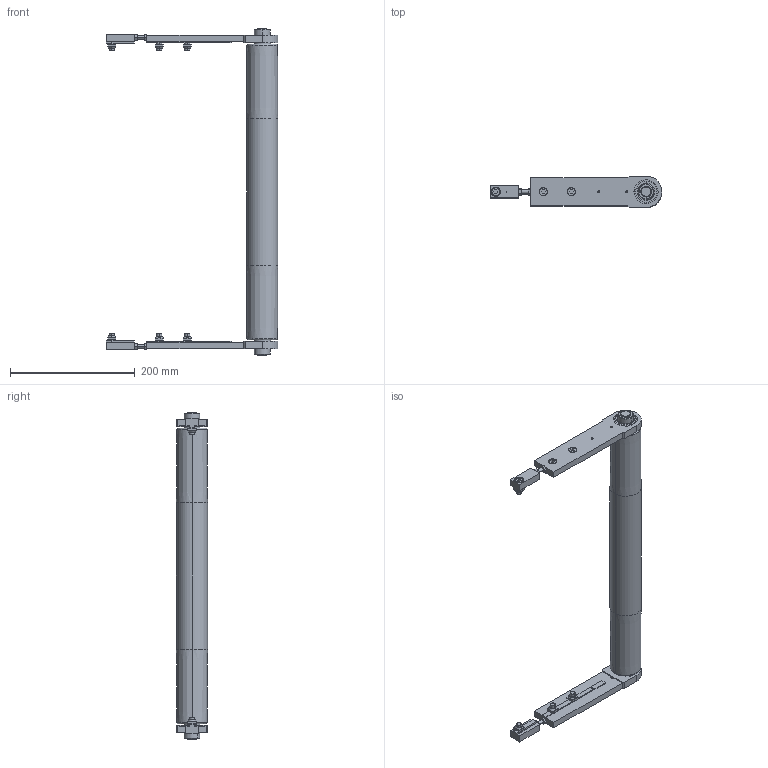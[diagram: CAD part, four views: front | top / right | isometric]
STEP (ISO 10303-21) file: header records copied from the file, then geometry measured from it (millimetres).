
FILE_DESCRIPTION (( 'STEP AP203' ), '1' );
FILE_NAME ('084.050.KIS.450.STEP', '2019-07-29T10:21:38', ( '' ), ( '' ), 'SwSTEP 2.0', 'SolidWorks 2018', '' );
FILE_SCHEMA (( 'CONFIG_CONTROL_DESIGN' ));
Length unit declared in the file: millimetre
Products named in the file (9): 084.810.001; 084.815.129_Default_A macchina_; 084.301.000 VITI ALUSIC_084.301.003; 084.050.KIS.450; 084.802.008; 084.807.002_084.807.002; 084.802.017_084.802.017; 084.302.000 DADI ALUSIC 13x13_084.302.004; 084.811.004
Assembly tree (23 placements, depth 2):
  084.050.KIS.450
    084.807.002_084.807.002  x2
    084.802.017_084.802.017  x2
    084.811.004  x2
    084.815.129_Default_A macchina_
    084.810.001  x2
    084.802.008  x2
    084.301.000 VITI ALUSIC_084.301.003  x6
    084.302.000 DADI ALUSIC 13x13_084.302.004  x6
Bounding box: 275 x 50 x 524 mm (x, y, z)
Volume: 592756.6 mm3; surface area: 340304.1 mm2
Topology: 29 solids, 31 shells, 696 faces, 1752 edges, 1134 vertices
Faces by surface type: plane 338, cylinder 220, bspline 84, cone 54
Entity records: 12326 total; most frequent: CARTESIAN_POINT 3044, DIRECTION 1701, ORIENTED_EDGE 1642, EDGE_CURVE 821, AXIS2_PLACEMENT_3D 646, VERTEX_POINT 539, LINE 409, VECTOR 409
